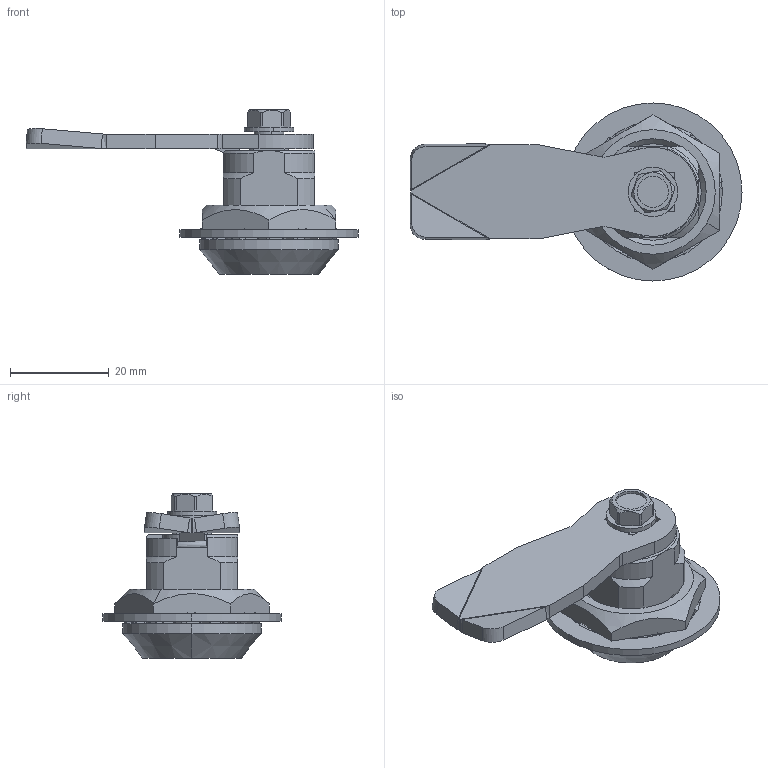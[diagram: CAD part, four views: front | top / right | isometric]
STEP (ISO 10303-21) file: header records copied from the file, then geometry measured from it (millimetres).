
FILE_DESCRIPTION (( 'STEP AP214' ), '1' );
FILE_NAME ('M22SP.STEP', '2011-06-17T12:19:52', ( '£ukasz Cieæka' ), ( '' ), 'SwSTEP 2.0', 'SolidWorks 2010', '' );
FILE_SCHEMA (( 'AUTOMOTIVE_DESIGN' ));
Length unit declared in the file: millimetre
Products named in the file (10): sruba M6; M22-R.00.00.05; 2.M22-Kw8-4-SP-Cr.05.00.00; podkladka zabezpieczaj¹ca DIN); M22.03.00.00; 1C.J-10018.00.00.00; 2.M22-Kw8-4-SP-Cr.02.02.00; M22SP; 2.M22-Kw8-4-SP-Cr.01.05.00; Oring 11,3x2,4
Assembly tree (10 placements, depth 2):
  M22SP
    2.M22-Kw8-4-SP-Cr.05.00.00
    Oring 11,3x2,4
    M22-R.00.00.05
    podkladka zabezpieczaj¹ca DIN)
    2.M22-Kw8-4-SP-Cr.01.05.00
    1C.J-10018.00.00.00
    M22.03.00.00  x2
    2.M22-Kw8-4-SP-Cr.02.02.00
    sruba M6
Bounding box: 67.11 x 36 x 33.28 mm (x, y, z)
Volume: 12782.7 mm3; surface area: 12520.5 mm2
Topology: 10 solids, 10 shells, 292 faces, 752 edges, 487 vertices
Faces by surface type: plane 128, cylinder 77, bspline 56, cone 27, torus 4
Entity records: 14309 total; most frequent: CARTESIAN_POINT 7075, ORIENTED_EDGE 1452, DIRECTION 1276, EDGE_CURVE 726, VERTEX_POINT 471, LINE 438, VECTOR 438, AXIS2_PLACEMENT_3D 419
